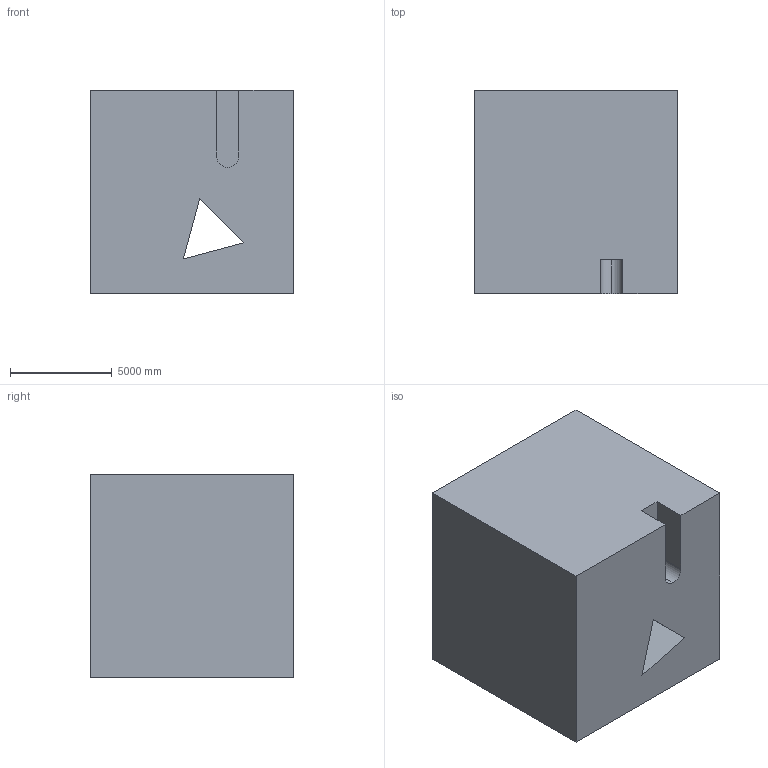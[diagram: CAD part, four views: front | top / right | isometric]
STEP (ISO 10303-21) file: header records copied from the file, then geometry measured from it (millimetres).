
FILE_DESCRIPTION (( 'STEP AP203' ), '1' );
FILE_NAME ('1134.STEP', '2022-08-18T12:53:41', ( 'user' ), ( '' ), 'SwSTEP 2.0', 'SolidWorks 2021', '' );
FILE_SCHEMA (( 'CONFIG_CONTROL_DESIGN' ));
Length unit declared in the file: centimetre
Products named in the file (1): 1134
Bounding box: 10000 x 10000 x 10000 mm (x, y, z)
Volume: 952236148752.1 mm3; surface area: 695976763.3 mm2
Topology: 1 solids, 1 shells, 14 faces, 36 edges, 24 vertices
Faces by surface type: plane 12, cylinder 2
Entity records: 505 total; most frequent: CARTESIAN_POINT 75, ORIENTED_EDGE 72, DIRECTION 70, EDGE_CURVE 36, LINE 32, VECTOR 32, VERTEX_POINT 24, AXIS2_PLACEMENT_3D 19
